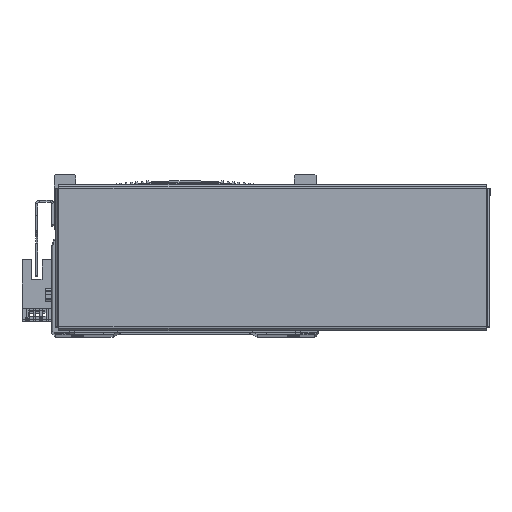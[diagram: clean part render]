
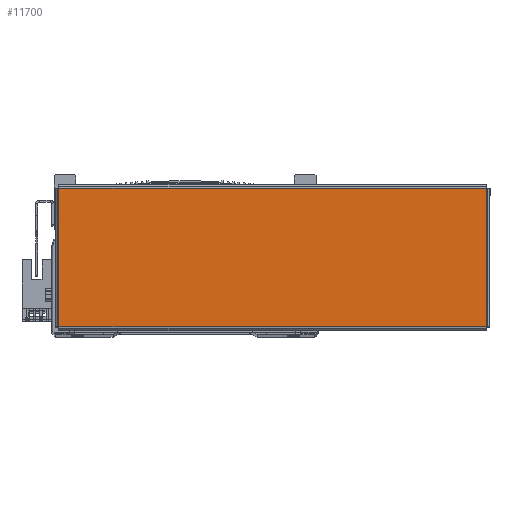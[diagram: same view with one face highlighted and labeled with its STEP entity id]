
A CAD part, top view. The second image highlights one B-rep face of the part: STEP entity #11700.
In plain terms, the highlighted planar face has unit normal (0, 0, 1) as drawn and (0, 0, -1) by its records, which use the part's own axes.
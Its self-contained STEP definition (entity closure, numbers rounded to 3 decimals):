
#5668 = VECTOR ( 'NONE', #53760, 1000. ) ;
#5762 = LINE ( 'NONE', #53769, #5668 ) ;
#5804 = VECTOR ( 'NONE', #53781, 1000. ) ;
#5836 = LINE ( 'NONE', #53813, #5804 ) ;
#5858 = VECTOR ( 'NONE', #53822, 1000. ) ;
#5870 = LINE ( 'NONE', #53838, #5858 ) ;
#5902 = LINE ( 'NONE', #53866, #5908 ) ;
#5908 = VECTOR ( 'NONE', #53876, 1000. ) ;
#8239 = EDGE_CURVE ( 'NONE', #15900, #13862, #5762, .T. ) ;
#8262 = EDGE_CURVE ( 'NONE', #13862, #13822, #5836, .T. ) ;
#8278 = EDGE_CURVE ( 'NONE', #13822, #13827, #5870, .T. ) ;
#8289 = EDGE_CURVE ( 'NONE', #13827, #15900, #5902, .T. ) ;
#11700 = ADVANCED_FACE ( 'NONE', ( #53405 ), #46524, .F. ) ;
#13822 = VERTEX_POINT ( 'NONE', #33412 ) ;
#13827 = VERTEX_POINT ( 'NONE', #33400 ) ;
#13862 = VERTEX_POINT ( 'NONE', #33468 ) ;
#15900 = VERTEX_POINT ( 'NONE', #29322 ) ;
#29322 = CARTESIAN_POINT ( 'NONE',  ( 97.863, -31.763, -1. ) ) ;
#33400 = CARTESIAN_POINT ( 'NONE',  ( 97.863, 31.763, -1. ) ) ;
#33412 = CARTESIAN_POINT ( 'NONE',  ( -97.863, 31.763, -1. ) ) ;
#33468 = CARTESIAN_POINT ( 'NONE',  ( -97.863, -31.763, -1. ) ) ;
#46524 = PLANE ( 'NONE',  #48408 ) ;
#46525 = DIRECTION ( 'NONE',  ( 0., 0., 1. ) ) ;
#46527 = DIRECTION ( 'NONE',  ( 1., 0., 0. ) ) ;
#46553 = CARTESIAN_POINT ( 'NONE',  ( 0., 0., -1. ) ) ;
#48408 = AXIS2_PLACEMENT_3D ( 'NONE', #46553, #46525, #46527 ) ;
#53405 = FACE_OUTER_BOUND ( 'NONE', #66555, .T. ) ;
#53760 = DIRECTION ( 'NONE',  ( -1., 0., 0. ) ) ;
#53769 = CARTESIAN_POINT ( 'NONE',  ( 97.893, -31.763, -1. ) ) ;
#53781 = DIRECTION ( 'NONE',  ( 0., 1., 0. ) ) ;
#53813 = CARTESIAN_POINT ( 'NONE',  ( -97.863, -31.793, -1. ) ) ;
#53822 = DIRECTION ( 'NONE',  ( 1., 0., 0. ) ) ;
#53838 = CARTESIAN_POINT ( 'NONE',  ( -97.893, 31.763, -1. ) ) ;
#53866 = CARTESIAN_POINT ( 'NONE',  ( 97.863, 31.793, -1. ) ) ;
#53876 = DIRECTION ( 'NONE',  ( 0., -1., 0. ) ) ;
#66555 = EDGE_LOOP ( 'NONE', ( #81361, #81381, #81343, #81393 ) ) ;
#81343 = ORIENTED_EDGE ( 'NONE', *, *, #8262, .T. ) ;
#81361 = ORIENTED_EDGE ( 'NONE', *, *, #8289, .T. ) ;
#81381 = ORIENTED_EDGE ( 'NONE', *, *, #8239, .T. ) ;
#81393 = ORIENTED_EDGE ( 'NONE', *, *, #8278, .T. ) ;
